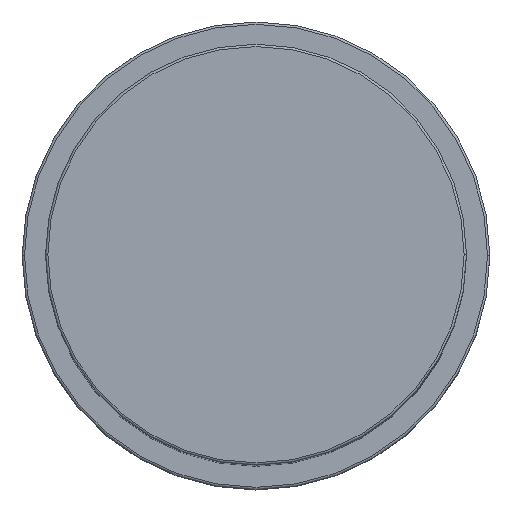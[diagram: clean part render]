
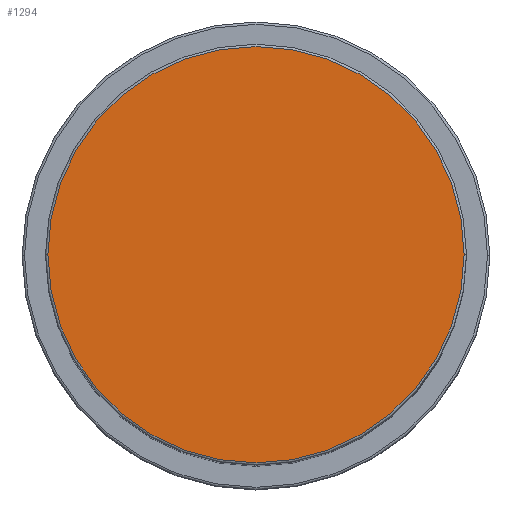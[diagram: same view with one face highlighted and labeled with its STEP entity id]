
A CAD part, top view. The second image highlights one B-rep face of the part: STEP entity #1294.
In plain terms, the highlighted planar face has unit normal (0, 0, 1).
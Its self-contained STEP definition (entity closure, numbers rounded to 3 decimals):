
#193 = AXIS2_PLACEMENT_3D ( 'NONE', #338, #1611, #225 ) ;
#225 = DIRECTION ( 'NONE',  ( 1., 0., 0. ) ) ;
#230 = EDGE_CURVE ( 'NONE', #629, #1385, #605, .T. ) ;
#263 = EDGE_LOOP ( 'NONE', ( #1019, #1070 ) ) ;
#338 = CARTESIAN_POINT ( 'NONE',  ( 0., 0., 159. ) ) ;
#463 = CARTESIAN_POINT ( 'NONE',  ( 44.5, 0., 159. ) ) ;
#605 = CIRCLE ( 'NONE', #1144, 44.5 ) ;
#629 = VERTEX_POINT ( 'NONE', #814 ) ;
#652 = EDGE_CURVE ( 'NONE', #1385, #629, #774, .T. ) ;
#697 = PLANE ( 'NONE',  #193 ) ;
#699 = CARTESIAN_POINT ( 'NONE',  ( 0., 0., 159. ) ) ;
#774 = CIRCLE ( 'NONE', #1273, 44.5 ) ;
#795 = FACE_OUTER_BOUND ( 'NONE', #263, .T. ) ;
#814 = CARTESIAN_POINT ( 'NONE',  ( -44.5, 0., 159. ) ) ;
#986 = CARTESIAN_POINT ( 'NONE',  ( 0., 0., 159. ) ) ;
#1019 = ORIENTED_EDGE ( 'NONE', *, *, #652, .T. ) ;
#1070 = ORIENTED_EDGE ( 'NONE', *, *, #230, .T. ) ;
#1144 = AXIS2_PLACEMENT_3D ( 'NONE', #986, #1392, #1517 ) ;
#1230 = DIRECTION ( 'NONE',  ( 1., 0., 0. ) ) ;
#1273 = AXIS2_PLACEMENT_3D ( 'NONE', #699, #1361, #1230 ) ;
#1294 = ADVANCED_FACE ( 'NONE', ( #795 ), #697, .T. ) ;
#1361 = DIRECTION ( 'NONE',  ( 0., 0., 1. ) ) ;
#1385 = VERTEX_POINT ( 'NONE', #463 ) ;
#1392 = DIRECTION ( 'NONE',  ( 0., 0., 1. ) ) ;
#1517 = DIRECTION ( 'NONE',  ( 1., 0., 0. ) ) ;
#1611 = DIRECTION ( 'NONE',  ( 0., 0., 1. ) ) ;
